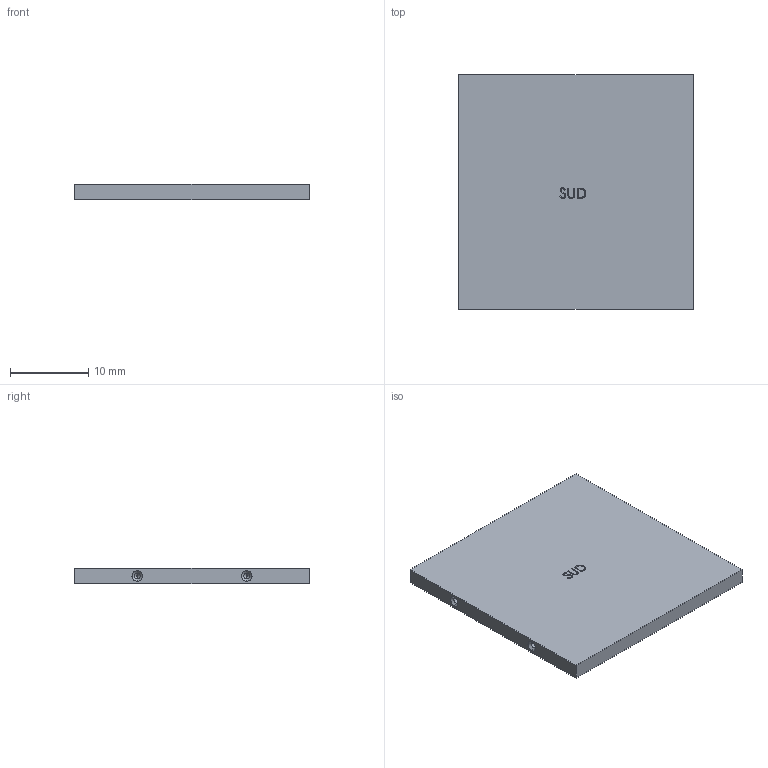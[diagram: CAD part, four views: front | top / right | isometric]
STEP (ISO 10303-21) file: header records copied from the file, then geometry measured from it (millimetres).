
FILE_DESCRIPTION (( 'STEP AP214' ), '1' );
FILE_NAME ('G11.STEP', '2016-02-28T08:51:25', ( '' ), ( '' ), 'SwSTEP 2.0', 'SolidWorks 2012', '' );
FILE_SCHEMA (( 'AUTOMOTIVE_DESIGN' ));
Length unit declared in the file: millimetre
Products named in the file (1): G11
Bounding box: 30 x 30 x 2 mm (x, y, z)
Volume: 1788.9 mm3; surface area: 2097.1 mm2
Topology: 1 solids, 1 shells, 81 faces, 213 edges, 142 vertices
Faces by surface type: bspline 29, plane 28, cone 16, cylinder 8
Entity records: 3931 total; most frequent: CARTESIAN_POINT 2042, ORIENTED_EDGE 426, DIRECTION 309, EDGE_CURVE 213, VERTEX_POINT 142, VECTOR 107, LINE 107, AXIS2_PLACEMENT_3D 101
